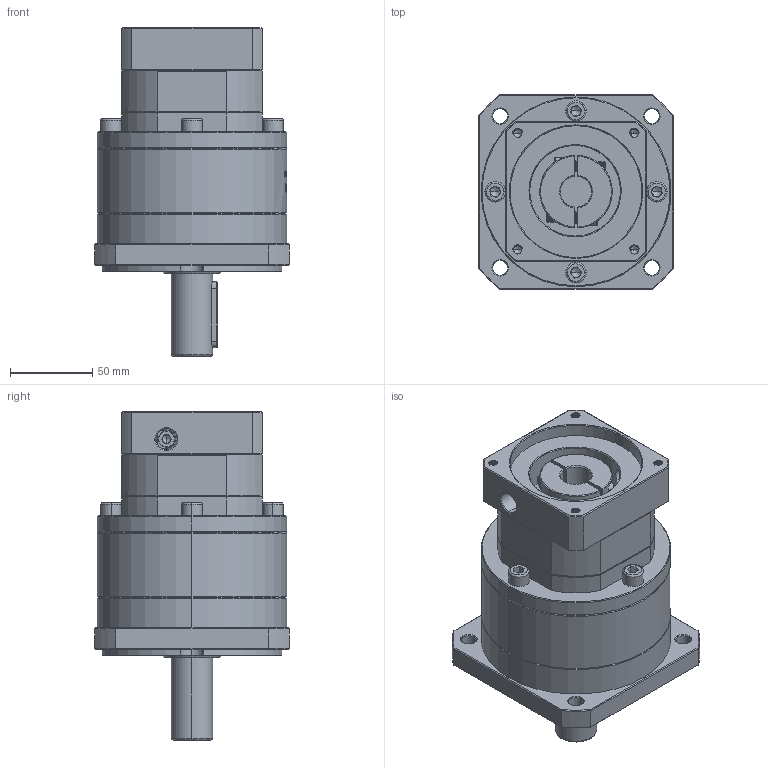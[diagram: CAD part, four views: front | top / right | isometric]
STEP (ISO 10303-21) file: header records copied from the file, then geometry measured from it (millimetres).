
FILE_DESCRIPTION (( 'STEP AP214' ), '1' );
FILE_NAME ('ZF120A-D25-L2-19-80-100-M6.step', '2023-03-07T15:00:44', ( '' ), ( 'Microsoft' ), 'SwSTEP 2.0', 'SolidWorks 2016', '' );
FILE_SCHEMA (( 'AUTOMOTIVE_DESIGN' ));
Length unit declared in the file: millimetre
Products named in the file (1): ZF120A-D25-L2-19-80-100-M6
Bounding box: 118 x 118 x 199 mm (x, y, z)
Volume: 1265511.5 mm3; surface area: 127042 mm2
Topology: 5 solids, 6 shells, 1937 faces, 5067 edges, 3222 vertices
Faces by surface type: plane 887, cylinder 402, bspline 321, cone 312, torus 15
Entity records: 105000 total; most frequent: CARTESIAN_POINT 39912, ORIENTED_EDGE 10074, DIRECTION 7765, EDGE_CURVE 5037, VERTEX_POINT 3222, LINE 2749, VECTOR 2749, AXIS2_PLACEMENT_3D 2508
